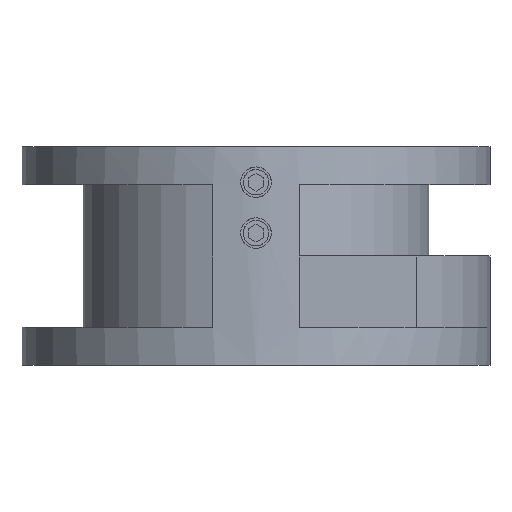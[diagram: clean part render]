
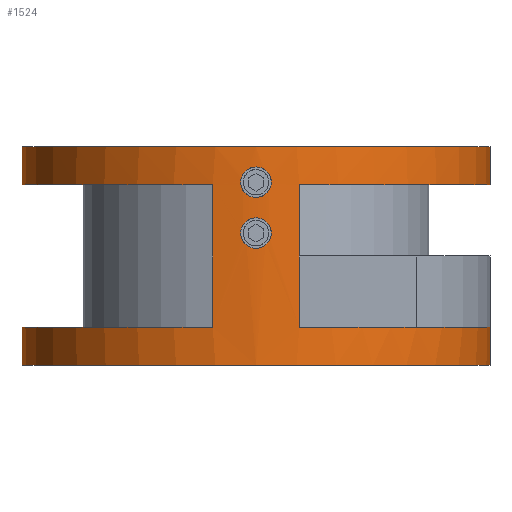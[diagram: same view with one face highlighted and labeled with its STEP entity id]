
A CAD part, front view. The second image highlights one B-rep face of the part: STEP entity #1524.
In plain terms, the highlighted cylindrical face has radius 46 mm (diameter 92 mm), a partial arc.
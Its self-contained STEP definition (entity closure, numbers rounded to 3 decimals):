
#7=CARTESIAN_POINT('',(0.,0.,-21.5));
#8=DIRECTION('',(0.,0.,1.));
#9=DIRECTION('',(-1.,0.,0.));
#10=AXIS2_PLACEMENT_3D('',#7,#8,#9);
#110=DIRECTION('',(0.,0.,1.));
#111=VECTOR('',#110,7.5);
#112=CARTESIAN_POINT('',(46.,0.,-21.5));
#113=LINE('',#112,#111);
#132=DIRECTION('',(0.,0.,1.));
#133=VECTOR('',#132,7.5);
#134=CARTESIAN_POINT('',(46.,0.,14.));
#135=LINE('',#134,#133);
#206=CARTESIAN_POINT('',(0.,0.,-14.));
#207=DIRECTION('',(0.,0.,1.));
#208=DIRECTION('',(0.685,-0.728,0.));
#209=AXIS2_PLACEMENT_3D('',#206,#207,#208);
#211=DIRECTION('',(0.,0.,1.));
#212=VECTOR('',#211,7.5);
#213=CARTESIAN_POINT('',(-46.,0.,-21.5));
#214=LINE('',#213,#212);
#215=CARTESIAN_POINT('',(0.,0.,-14.));
#216=DIRECTION('',(0.,0.,1.));
#217=DIRECTION('',(-1.,0.,0.));
#218=AXIS2_PLACEMENT_3D('',#215,#216,#217);
#220=DIRECTION('',(0.,0.,1.));
#221=VECTOR('',#220,28.);
#222=CARTESIAN_POINT('',(-8.5,-45.208,-14.));
#223=LINE('',#222,#221);
#224=CARTESIAN_POINT('',(0.,0.,14.));
#225=DIRECTION('',(0.,0.,1.));
#226=DIRECTION('',(-1.,0.,0.));
#227=AXIS2_PLACEMENT_3D('',#224,#225,#226);
#229=DIRECTION('',(0.,0.,1.));
#230=VECTOR('',#229,7.5);
#231=CARTESIAN_POINT('',(-46.,0.,14.));
#232=LINE('',#231,#230);
#233=CARTESIAN_POINT('',(0.,0.,14.));
#234=DIRECTION('',(0.,0.,1.));
#235=DIRECTION('',(0.185,-0.983,0.));
#236=AXIS2_PLACEMENT_3D('',#233,#234,#235);
#238=CARTESIAN_POINT('',(0.,0.,-14.));
#239=DIRECTION('',(0.,0.,1.));
#240=DIRECTION('',(0.185,-0.983,0.));
#241=AXIS2_PLACEMENT_3D('',#238,#239,#240);
#243=CARTESIAN_POINT('',(-2.5,-45.932,14.5));
#244=CARTESIAN_POINT('',(-2.5,-45.932,14.256));
#245=CARTESIAN_POINT('',(-2.432,-45.936,13.789));
#246=CARTESIAN_POINT('',(-2.132,-45.951,13.13));
#247=CARTESIAN_POINT('',(-1.66,-45.971,12.585));
#248=CARTESIAN_POINT('',(-1.052,-45.99,12.195));
#249=CARTESIAN_POINT('',(-0.36,-46.,
11.992));
#250=CARTESIAN_POINT('',(0.36,-46.,11.992));
#251=CARTESIAN_POINT('',(1.052,-45.99,12.195));
#252=CARTESIAN_POINT('',(1.66,-45.971,12.585));
#253=CARTESIAN_POINT('',(2.132,-45.951,13.13));
#254=CARTESIAN_POINT('',(2.432,-45.936,13.789));
#255=CARTESIAN_POINT('',(2.5,-45.932,14.256));
#256=CARTESIAN_POINT('',(2.5,-45.932,14.5));
#258=CARTESIAN_POINT('',(2.5,-45.932,14.5));
#259=CARTESIAN_POINT('',(2.5,-45.932,14.744));
#260=CARTESIAN_POINT('',(2.432,-45.936,15.211));
#261=CARTESIAN_POINT('',(2.132,-45.951,15.87));
#262=CARTESIAN_POINT('',(1.66,-45.971,16.415));
#263=CARTESIAN_POINT('',(1.052,-45.99,16.805));
#264=CARTESIAN_POINT('',(0.36,-46.,17.008));
#265=CARTESIAN_POINT('',(-0.36,-46.,
17.008));
#266=CARTESIAN_POINT('',(-1.052,-45.99,16.805));
#267=CARTESIAN_POINT('',(-1.66,-45.971,16.415));
#268=CARTESIAN_POINT('',(-2.132,-45.951,15.87));
#269=CARTESIAN_POINT('',(-2.432,-45.936,15.211));
#270=CARTESIAN_POINT('',(-2.5,-45.932,14.744));
#271=CARTESIAN_POINT('',(-2.5,-45.932,14.5));
#273=CARTESIAN_POINT('',(-2.5,-45.932,4.5));
#274=CARTESIAN_POINT('',(-2.5,-45.932,4.256));
#275=CARTESIAN_POINT('',(-2.432,-45.936,3.789));
#276=CARTESIAN_POINT('',(-2.132,-45.951,3.13));
#277=CARTESIAN_POINT('',(-1.66,-45.971,2.585));
#278=CARTESIAN_POINT('',(-1.052,-45.99,2.195));
#279=CARTESIAN_POINT('',(-0.36,-46.,
1.992));
#280=CARTESIAN_POINT('',(0.36,-46.,1.992));
#281=CARTESIAN_POINT('',(1.052,-45.99,2.195));
#282=CARTESIAN_POINT('',(1.66,-45.971,2.585));
#283=CARTESIAN_POINT('',(2.132,-45.951,3.13));
#284=CARTESIAN_POINT('',(2.432,-45.936,3.789));
#285=CARTESIAN_POINT('',(2.5,-45.932,4.256));
#286=CARTESIAN_POINT('',(2.5,-45.932,4.5));
#288=CARTESIAN_POINT('',(2.5,-45.932,4.5));
#289=CARTESIAN_POINT('',(2.5,-45.932,4.744));
#290=CARTESIAN_POINT('',(2.432,-45.936,5.211));
#291=CARTESIAN_POINT('',(2.132,-45.951,5.87));
#292=CARTESIAN_POINT('',(1.66,-45.971,6.415));
#293=CARTESIAN_POINT('',(1.052,-45.99,6.805));
#294=CARTESIAN_POINT('',(0.36,-46.,7.008));
#295=CARTESIAN_POINT('',(-0.36,-46.,
7.008));
#296=CARTESIAN_POINT('',(-1.052,-45.99,6.805));
#297=CARTESIAN_POINT('',(-1.66,-45.971,6.415));
#298=CARTESIAN_POINT('',(-2.132,-45.951,5.87));
#299=CARTESIAN_POINT('',(-2.432,-45.936,5.211));
#300=CARTESIAN_POINT('',(-2.5,-45.932,4.744));
#301=CARTESIAN_POINT('',(-2.5,-45.932,4.5));
#412=DIRECTION('',(0.,0.,1.));
#413=VECTOR('',#412,28.);
#414=CARTESIAN_POINT('',(8.5,-45.208,-14.));
#415=LINE('',#414,#413);
#425=CARTESIAN_POINT('',(0.,0.,21.5));
#426=DIRECTION('',(0.,0.,1.));
#427=DIRECTION('',(-1.,0.,0.));
#428=AXIS2_PLACEMENT_3D('',#425,#426,#427);
#1090=CARTESIAN_POINT('',(46.,0.,-21.5));
#1091=CARTESIAN_POINT('',(-46.,0.,-21.5));
#1092=VERTEX_POINT('',#1090);
#1093=VERTEX_POINT('',#1091);
#1094=CARTESIAN_POINT('',(46.,0.,21.5));
#1095=CARTESIAN_POINT('',(-46.,0.,21.5));
#1096=VERTEX_POINT('',#1094);
#1097=VERTEX_POINT('',#1095);
#1106=CARTESIAN_POINT('',(46.,0.,14.));
#1107=VERTEX_POINT('',#1106);
#1108=CARTESIAN_POINT('',(-46.,0.,-14.));
#1109=VERTEX_POINT('',#1108);
#1110=CARTESIAN_POINT('',(-46.,0.,14.));
#1111=VERTEX_POINT('',#1110);
#1117=CARTESIAN_POINT('',(-8.5,-45.208,-14.));
#1119=VERTEX_POINT('',#1117);
#1129=CARTESIAN_POINT('',(-8.5,-45.208,14.));
#1131=VERTEX_POINT('',#1129);
#1132=CARTESIAN_POINT('',(8.5,-45.208,14.));
#1134=VERTEX_POINT('',#1132);
#1138=CARTESIAN_POINT('',(8.5,-45.208,-14.));
#1139=VERTEX_POINT('',#1138);
#1144=CARTESIAN_POINT('',(31.524,-33.5,-14.));
#1145=CARTESIAN_POINT('',(46.,0.,-14.));
#1146=VERTEX_POINT('',#1144);
#1147=VERTEX_POINT('',#1145);
#1333=CARTESIAN_POINT('',(2.5,-45.932,14.5));
#1335=VERTEX_POINT('',#1333);
#1337=CARTESIAN_POINT('',(-2.5,-45.932,14.5));
#1339=VERTEX_POINT('',#1337);
#1341=CARTESIAN_POINT('',(2.5,-45.932,4.5));
#1343=VERTEX_POINT('',#1341);
#1345=CARTESIAN_POINT('',(-2.5,-45.932,4.5));
#1347=VERTEX_POINT('',#1345);
#1485=CARTESIAN_POINT('',(0.,0.,-21.5));
#1486=DIRECTION('',(0.,0.,1.));
#1487=DIRECTION('',(1.,0.,0.));
#1488=AXIS2_PLACEMENT_3D('',#1485,#1486,#1487);
#1489=CYLINDRICAL_SURFACE('',#1488,46.);
#1490=ORIENTED_EDGE('',*,*,#1441,.T.);
#1491=ORIENTED_EDGE('',*,*,#1439,.F.);
#1492=ORIENTED_EDGE('',*,*,#1355,.F.);
#1493=ORIENTED_EDGE('',*,*,#1467,.T.);
#1495=ORIENTED_EDGE('',*,*,#1494,.T.);
#1497=ORIENTED_EDGE('',*,*,#1496,.T.);
#1499=ORIENTED_EDGE('',*,*,#1498,.F.);
#1500=ORIENTED_EDGE('',*,*,#1459,.T.);
#1502=ORIENTED_EDGE('',*,*,#1501,.T.);
#1503=ORIENTED_EDGE('',*,*,#1455,.F.);
#1505=ORIENTED_EDGE('',*,*,#1504,.F.);
#1507=ORIENTED_EDGE('',*,*,#1506,.F.);
#1509=ORIENTED_EDGE('',*,*,#1508,.T.);
#1510=EDGE_LOOP('',(#1490,#1491,#1492,#1493,#1495,#1497,#1499,#1500,#1502,#1503,
#1505,#1507,#1509));
#1511=FACE_OUTER_BOUND('',#1510,.F.);
#1513=ORIENTED_EDGE('',*,*,#1512,.T.);
#1515=ORIENTED_EDGE('',*,*,#1514,.T.);
#1516=EDGE_LOOP('',(#1513,#1515));
#1517=FACE_BOUND('',#1516,.F.);
#1519=ORIENTED_EDGE('',*,*,#1518,.T.);
#1521=ORIENTED_EDGE('',*,*,#1520,.T.);
#1522=EDGE_LOOP('',(#1519,#1521));
#1523=FACE_BOUND('',#1522,.F.);
#1524=ADVANCED_FACE('',(#1511,#1517,#1523),#1489,.T.);
#11=CIRCLE('',#10,46.);
#210=CIRCLE('',#209,46.);
#219=CIRCLE('',#218,46.);
#228=CIRCLE('',#227,46.);
#237=CIRCLE('',#236,46.);
#242=CIRCLE('',#241,46.);
#257=B_SPLINE_CURVE_WITH_KNOTS('',3,(#243,#244,#245,#246,#247,#248,#249,#250,
#251,#252,#253,#254,#255,#256),.UNSPECIFIED.,.F.,.F.,(4,1,1,1,1,1,1,1,1,1,1,4),(
0.,0.091,0.182,0.273,0.364,
0.455,0.545,0.636,0.727,
0.818,0.909,1.),.UNSPECIFIED.);
#272=B_SPLINE_CURVE_WITH_KNOTS('',3,(#258,#259,#260,#261,#262,#263,#264,#265,
#266,#267,#268,#269,#270,#271),.UNSPECIFIED.,.F.,.F.,(4,1,1,1,1,1,1,1,1,1,1,4),(
0.,0.091,0.182,0.273,0.364,
0.455,0.545,0.636,0.727,
0.818,0.909,1.),.UNSPECIFIED.);
#287=B_SPLINE_CURVE_WITH_KNOTS('',3,(#273,#274,#275,#276,#277,#278,#279,#280,
#281,#282,#283,#284,#285,#286),.UNSPECIFIED.,.F.,.F.,(4,1,1,1,1,1,1,1,1,1,1,4),(
0.,0.091,0.182,0.273,0.364,
0.455,0.545,0.636,0.727,
0.818,0.909,1.),.UNSPECIFIED.);
#302=B_SPLINE_CURVE_WITH_KNOTS('',3,(#288,#289,#290,#291,#292,#293,#294,#295,
#296,#297,#298,#299,#300,#301),.UNSPECIFIED.,.F.,.F.,(4,1,1,1,1,1,1,1,1,1,1,4),(
0.,0.091,0.182,0.273,0.364,
0.455,0.545,0.636,0.727,
0.818,0.909,1.),.UNSPECIFIED.);
#429=CIRCLE('',#428,46.);
#1355=EDGE_CURVE('',#1093,#1092,#11,.T.);
#1439=EDGE_CURVE('',#1092,#1147,#113,.T.);
#1441=EDGE_CURVE('',#1146,#1147,#210,.T.);
#1455=EDGE_CURVE('',#1107,#1096,#135,.T.);
#1459=EDGE_CURVE('',#1111,#1097,#232,.T.);
#1467=EDGE_CURVE('',#1093,#1109,#214,.T.);
#1494=EDGE_CURVE('',#1109,#1119,#219,.T.);
#1496=EDGE_CURVE('',#1119,#1131,#223,.T.);
#1498=EDGE_CURVE('',#1111,#1131,#228,.T.);
#1501=EDGE_CURVE('',#1097,#1096,#429,.T.);
#1504=EDGE_CURVE('',#1134,#1107,#237,.T.);
#1506=EDGE_CURVE('',#1139,#1134,#415,.T.);
#1508=EDGE_CURVE('',#1139,#1146,#242,.T.);
#1512=EDGE_CURVE('',#1339,#1335,#257,.T.);
#1514=EDGE_CURVE('',#1335,#1339,#272,.T.);
#1518=EDGE_CURVE('',#1347,#1343,#287,.T.);
#1520=EDGE_CURVE('',#1343,#1347,#302,.T.);
